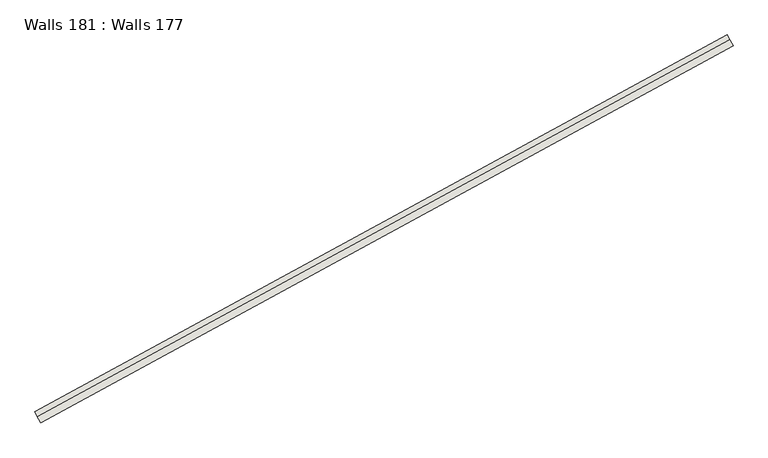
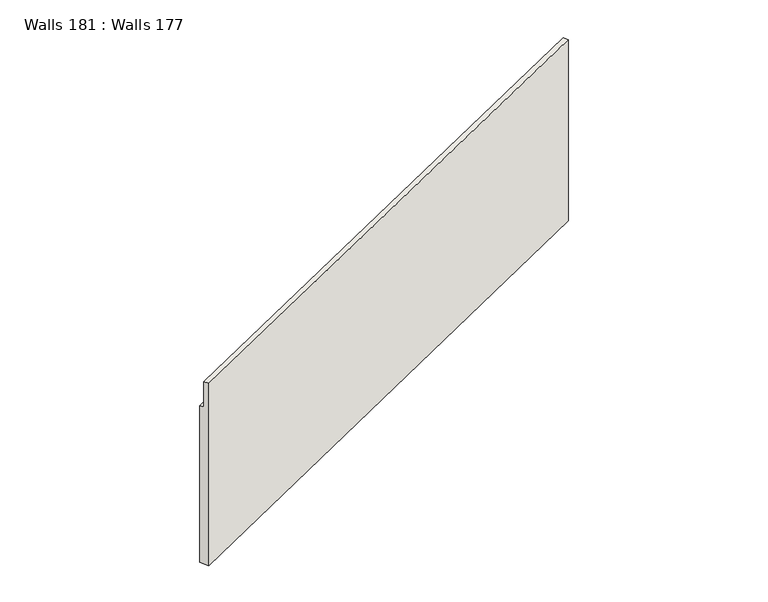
"""IFC4 building model written with IfcOpenShell, lengths in millimetres: wall geometry, Walls 181 : Walls 177."""

from ifc_helpers import new_model, si_unit, origin, place, context, project, spatial, faceted_brep, source, transform, mapped, element, save


def walls_181_walls_177_e2447531(model_context):
    return source(origin(), model_context, "Body", "Brep", [
        faceted_brep([(247143.4688643, 185379.2246426, 649959.9548139), (247047.8267268, 185554.873672, 649959.9548139), (247047.8267268, 185554.873672, 648959.9548139), (246976.0951237, 185686.6104441, 648959.9548139), (246976.0951237, 185686.6104441, 642749.9548139), (247143.4688643, 185379.2246426, 642749.9548139), (266773.430159, 196067.8772491, 650219.6701926), (266773.430159, 196067.8772491, 643039.6701926), (266606.0564185, 196375.2630507, 643039.6701926), (266606.0564185, 196375.2630507, 649219.6701926), (266677.7880216, 196243.5262786, 649219.6701926), (266677.7880216, 196243.5262786, 650219.6701926)], [[[0, 1, 2, 3, 4, 5]], [[6, 7, 8, 9, 10, 11]], [[6, 11, 1, 0]], [[11, 10, 2, 1]], [[10, 9, 3, 2]], [[9, 8, 4, 3]], [[8, 7, 5, 4]], [[7, 6, 0, 5]]]),
    ])


if __name__ == "__main__":
    model = new_model("IFC4")
    model_context = context("Model", 3, world=origin())
    ifc_project = project(units=[si_unit("LENGTHUNIT", "METRE", prefix="MILLI")], contexts=[model_context])
    site = spatial("IfcSite", under=ifc_project)
    building = spatial("IfcBuilding", under=site)
    placement = place(None, origin())
    walls_181_walls_177_shape = walls_181_walls_177_e2447531(model_context)
    element("IfcWall", 1, ObjectType="Walls 181 : Walls 177", at=placement, inside=building, context=model_context, shape_type="MappedRepresentation", body=[
        mapped(walls_181_walls_177_shape, transform((0.0, 0.0, 0.0), x_axis=(1.0, 0.0, 0.0), y_axis=(0.0, 1.0, 0.0), z_axis=(0.0, 0.0, 1.0))),
    ])
    save(model, "model.ifc")
